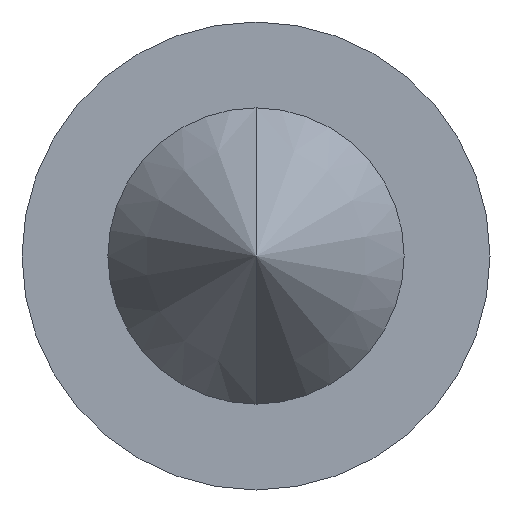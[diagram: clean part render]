
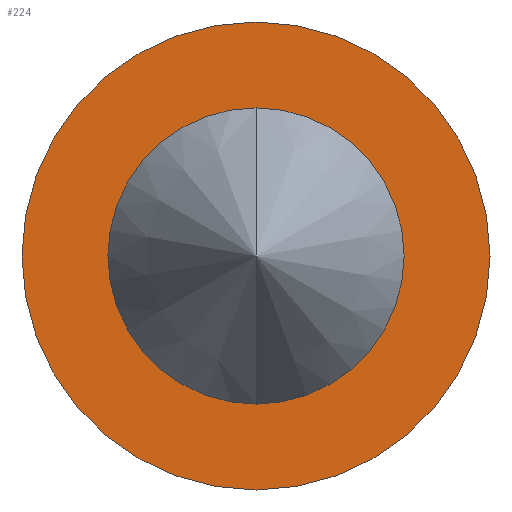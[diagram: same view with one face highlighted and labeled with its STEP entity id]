
A CAD part, front view. The second image highlights one B-rep face of the part: STEP entity #224.
In plain terms, the highlighted planar face has unit normal (0, -1, 0).
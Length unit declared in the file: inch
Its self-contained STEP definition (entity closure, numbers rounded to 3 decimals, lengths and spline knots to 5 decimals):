
#5 = CARTESIAN_POINT ( 'NONE',  ( 0., -0.25084, 0. ) ) ;
#6 = VERTEX_POINT ( 'NONE', #115 ) ;
#7 = FACE_BOUND ( 'NONE', #361, .T. ) ;
#10 = AXIS2_PLACEMENT_3D ( 'NONE', #244, #343, #12 ) ;
#12 = DIRECTION ( 'NONE',  ( 0., 0., -1. ) ) ;
#14 = DIRECTION ( 'NONE',  ( 0., -1., 0. ) ) ;
#33 = CARTESIAN_POINT ( 'NONE',  ( 0., -0.25084, 0.1975 ) ) ;
#39 = ORIENTED_EDGE ( 'NONE', *, *, #218, .F. ) ;
#47 = DIRECTION ( 'NONE',  ( 0., 0., -1. ) ) ;
#67 = FACE_OUTER_BOUND ( 'NONE', #92, .T. ) ;
#74 = DIRECTION ( 'NONE',  ( 0., 0., -1. ) ) ;
#85 = AXIS2_PLACEMENT_3D ( 'NONE', #221, #14, #47 ) ;
#92 = EDGE_LOOP ( 'NONE', ( #96, #281 ) ) ;
#96 = ORIENTED_EDGE ( 'NONE', *, *, #368, .T. ) ;
#104 = CARTESIAN_POINT ( 'NONE',  ( 0., -0.25084, 0.125 ) ) ;
#111 = CARTESIAN_POINT ( 'NONE',  ( 0., -0.25084, 0. ) ) ;
#113 = CIRCLE ( 'NONE', #382, 0.125 ) ;
#115 = CARTESIAN_POINT ( 'NONE',  ( 0., -0.25084, -0.1975 ) ) ;
#119 = CIRCLE ( 'NONE', #306, 0.125 ) ;
#127 = PLANE ( 'NONE',  #10 ) ;
#147 = ORIENTED_EDGE ( 'NONE', *, *, #353, .F. ) ;
#182 = VERTEX_POINT ( 'NONE', #33 ) ;
#185 = VERTEX_POINT ( 'NONE', #336 ) ;
#218 = EDGE_CURVE ( 'NONE', #185, #305, #119, .T. ) ;
#221 = CARTESIAN_POINT ( 'NONE',  ( 0., -0.25084, 0. ) ) ;
#224 = ADVANCED_FACE ( 'NONE', ( #67, #7 ), #127, .T. ) ;
#230 = DIRECTION ( 'NONE',  ( 0., -1., 0. ) ) ;
#242 = DIRECTION ( 'NONE',  ( 0., -1., 0. ) ) ;
#244 = CARTESIAN_POINT ( 'NONE',  ( 0., -0.25084, -0.125 ) ) ;
#253 = CIRCLE ( 'NONE', #85, 0.1975 ) ;
#271 = EDGE_CURVE ( 'NONE', #182, #6, #253, .T. ) ;
#281 = ORIENTED_EDGE ( 'NONE', *, *, #271, .T. ) ;
#305 = VERTEX_POINT ( 'NONE', #104 ) ;
#306 = AXIS2_PLACEMENT_3D ( 'NONE', #5, #242, #366 ) ;
#312 = CARTESIAN_POINT ( 'NONE',  ( 0., -0.25084, 0. ) ) ;
#336 = CARTESIAN_POINT ( 'NONE',  ( 0., -0.25084, -0.125 ) ) ;
#339 = CIRCLE ( 'NONE', #393, 0.1975 ) ;
#341 = DIRECTION ( 'NONE',  ( 0., -1., 0. ) ) ;
#343 = DIRECTION ( 'NONE',  ( 0., -1., 0. ) ) ;
#353 = EDGE_CURVE ( 'NONE', #305, #185, #113, .T. ) ;
#354 = DIRECTION ( 'NONE',  ( 0., 0., -1. ) ) ;
#361 = EDGE_LOOP ( 'NONE', ( #39, #147 ) ) ;
#366 = DIRECTION ( 'NONE',  ( 0., 0., -1. ) ) ;
#368 = EDGE_CURVE ( 'NONE', #6, #182, #339, .T. ) ;
#382 = AXIS2_PLACEMENT_3D ( 'NONE', #111, #341, #74 ) ;
#393 = AXIS2_PLACEMENT_3D ( 'NONE', #312, #230, #354 ) ;
